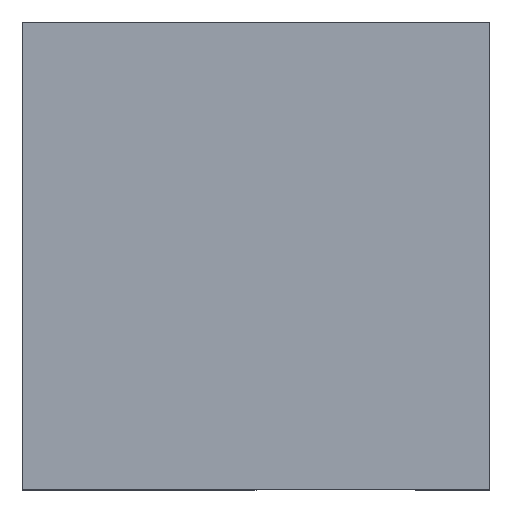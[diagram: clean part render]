
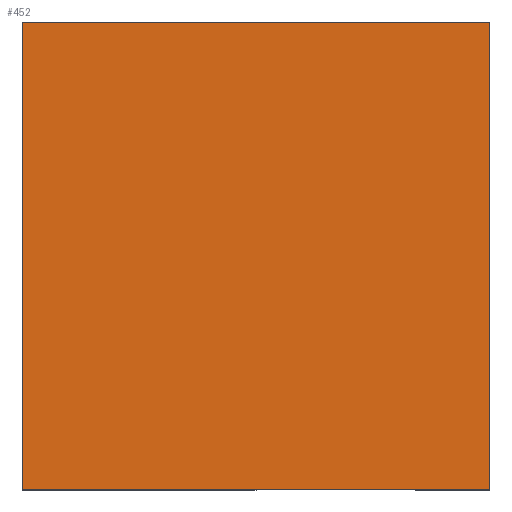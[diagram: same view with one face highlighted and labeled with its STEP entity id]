
A CAD part, top view. The second image highlights one B-rep face of the part: STEP entity #452.
In plain terms, the highlighted planar face has unit normal (0, 0, 1).
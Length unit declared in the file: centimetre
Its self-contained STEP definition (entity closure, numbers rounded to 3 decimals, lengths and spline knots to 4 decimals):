
#16 = EDGE_CURVE ( 'NONE', #356, #404, #332, .T. ) ;
#42 = AXIS2_PLACEMENT_3D ( 'NONE', #437, #252, #133 ) ;
#51 = CARTESIAN_POINT ( 'NONE',  ( 0., 1000., 1000. ) ) ;
#62 = VECTOR ( 'NONE', #282, 100. ) ;
#87 = CARTESIAN_POINT ( 'NONE',  ( 0., 0., 1000. ) ) ;
#106 = VERTEX_POINT ( 'NONE', #451 ) ;
#123 = CARTESIAN_POINT ( 'NONE',  ( 1000., 1000., 1000. ) ) ;
#124 = VECTOR ( 'NONE', #486, 100. ) ;
#128 = ORIENTED_EDGE ( 'NONE', *, *, #358, .T. ) ;
#130 = CARTESIAN_POINT ( 'NONE',  ( 0., 1000., 1000. ) ) ;
#133 = DIRECTION ( 'NONE',  ( 1., 0., 0. ) ) ;
#161 = CARTESIAN_POINT ( 'NONE',  ( 0., 1000., 1000. ) ) ;
#167 = LINE ( 'NONE', #428, #474 ) ;
#168 = DIRECTION ( 'NONE',  ( 1., 0., 0. ) ) ;
#173 = CARTESIAN_POINT ( 'NONE',  ( 0., 0., 1000. ) ) ;
#186 = ORIENTED_EDGE ( 'NONE', *, *, #291, .T. ) ;
#199 = VECTOR ( 'NONE', #168, 100. ) ;
#205 = VERTEX_POINT ( 'NONE', #123 ) ;
#250 = FACE_OUTER_BOUND ( 'NONE', #431, .T. ) ;
#252 = DIRECTION ( 'NONE',  ( 0., 0., 1. ) ) ;
#282 = DIRECTION ( 'NONE',  ( -1., 0., 0. ) ) ;
#285 = LINE ( 'NONE', #130, #62 ) ;
#291 = EDGE_CURVE ( 'NONE', #404, #106, #391, .T. ) ;
#332 = LINE ( 'NONE', #51, #124 ) ;
#356 = VERTEX_POINT ( 'NONE', #161 ) ;
#358 = EDGE_CURVE ( 'NONE', #106, #205, #167, .T. ) ;
#391 = LINE ( 'NONE', #87, #199 ) ;
#404 = VERTEX_POINT ( 'NONE', #173 ) ;
#415 = EDGE_CURVE ( 'NONE', #205, #356, #285, .T. ) ;
#428 = CARTESIAN_POINT ( 'NONE',  ( 1000., 1000., 1000. ) ) ;
#431 = EDGE_LOOP ( 'NONE', ( #491, #186, #128, #454 ) ) ;
#437 = CARTESIAN_POINT ( 'NONE',  ( 0., 0., 1000. ) ) ;
#451 = CARTESIAN_POINT ( 'NONE',  ( 1000., 0., 1000. ) ) ;
#452 = ADVANCED_FACE ( 'NONE', ( #250 ), #475, .T. ) ;
#454 = ORIENTED_EDGE ( 'NONE', *, *, #415, .T. ) ;
#461 = DIRECTION ( 'NONE',  ( 0., 1., 0. ) ) ;
#474 = VECTOR ( 'NONE', #461, 100. ) ;
#475 = PLANE ( 'NONE',  #42 ) ;
#486 = DIRECTION ( 'NONE',  ( 0., -1., 0. ) ) ;
#491 = ORIENTED_EDGE ( 'NONE', *, *, #16, .T. ) ;
